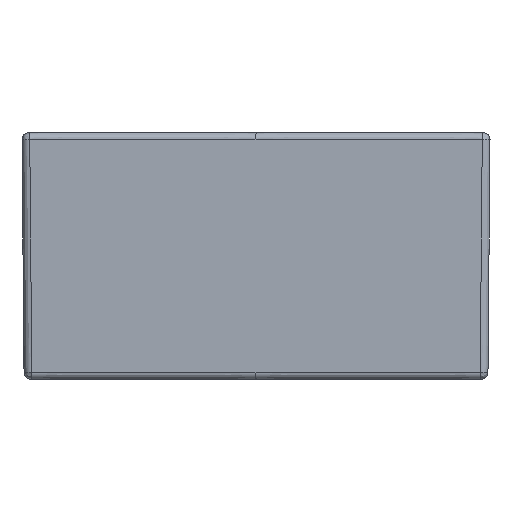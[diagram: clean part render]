
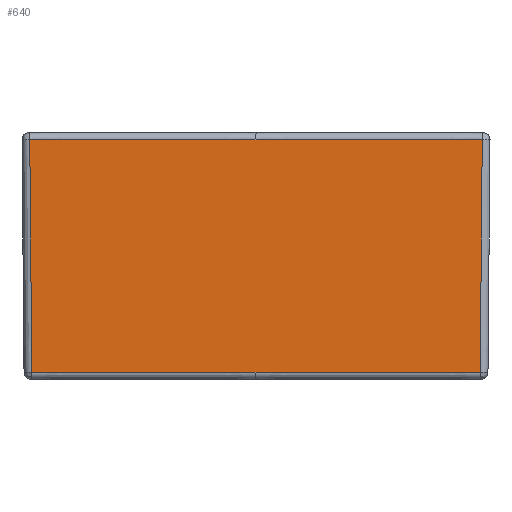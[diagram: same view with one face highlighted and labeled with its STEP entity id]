
A CAD part, left-side view. The second image highlights one B-rep face of the part: STEP entity #640.
In plain terms, the highlighted free-form (B-spline) face has degree [1, 3] with [2, 4] control points.
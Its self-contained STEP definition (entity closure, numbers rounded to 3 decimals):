
#608=B_SPLINE_SURFACE_WITH_KNOTS('',1,3,((#6536,#6537,#6538,#6539),(#6540,
#6541,#6542,#6543)),.UNSPECIFIED.,.F.,.F.,.F.,(2,2),(4,4),(0.,1.),(0.,1.),
 .UNSPECIFIED.);
#640=ADVANCED_FACE('',(#986),#608,.T.);
#986=FACE_OUTER_BOUND('',#1298,.T.);
#1298=EDGE_LOOP('',(#1836,#1837,#1838,#1839,#1840,#1841));
#1836=ORIENTED_EDGE('',*,*,#3656,.T.);
#1837=ORIENTED_EDGE('',*,*,#3657,.F.);
#1838=ORIENTED_EDGE('',*,*,#3658,.T.);
#1839=ORIENTED_EDGE('',*,*,#3659,.F.);
#1840=ORIENTED_EDGE('',*,*,#3660,.T.);
#1841=ORIENTED_EDGE('',*,*,#3661,.F.);
#3248=VERTEX_POINT('',#6486);
#3249=VERTEX_POINT('',#6487);
#3250=VERTEX_POINT('',#6492);
#3251=VERTEX_POINT('',#6509);
#3252=VERTEX_POINT('',#6514);
#3253=VERTEX_POINT('',#6519);
#3656=EDGE_CURVE('',#3248,#3249,#4356,.T.);
#3657=EDGE_CURVE('',#3250,#3249,#4357,.T.);
#3658=EDGE_CURVE('',#3250,#3251,#4358,.T.);
#3659=EDGE_CURVE('',#3252,#3251,#4359,.T.);
#3660=EDGE_CURVE('',#3252,#3253,#4360,.T.);
#3661=EDGE_CURVE('',#3248,#3253,#4361,.T.);
#4356=B_SPLINE_CURVE_WITH_KNOTS('',3,(#6482,#6483,#6484,#6485),
 .UNSPECIFIED.,.F.,.F.,(4,4),(0.,1.),.UNSPECIFIED.);
#4357=B_SPLINE_CURVE_WITH_KNOTS('',3,(#6488,#6489,#6490,#6491),
 .UNSPECIFIED.,.F.,.F.,(4,4),(0.,1.),.UNSPECIFIED.);
#4358=B_SPLINE_CURVE_WITH_KNOTS('',3,(#6493,#6494,#6495,#6496,#6497,#6498,
#6499,#6500,#6501,#6502,#6503,#6504,#6505,#6506,#6507,#6508),
 .UNSPECIFIED.,.F.,.F.,(4,3,3,3,3,4),(0.,0.165,0.431,
0.498,0.817,1.),.UNSPECIFIED.);
#4359=B_SPLINE_CURVE_WITH_KNOTS('',3,(#6510,#6511,#6512,#6513),
 .UNSPECIFIED.,.F.,.F.,(4,4),(0.,1.),.UNSPECIFIED.);
#4360=B_SPLINE_CURVE_WITH_KNOTS('',3,(#6515,#6516,#6517,#6518),
 .UNSPECIFIED.,.F.,.F.,(4,4),(0.,1.),.UNSPECIFIED.);
#4361=B_SPLINE_CURVE_WITH_KNOTS('',3,(#6520,#6521,#6522,#6523,#6524,#6525,
#6526,#6527,#6528,#6529,#6530,#6531,#6532,#6533,#6534,#6535),
 .UNSPECIFIED.,.F.,.F.,(4,3,3,3,3,4),(0.,0.165,0.431,
0.498,0.817,1.),.UNSPECIFIED.);
#6482=CARTESIAN_POINT('',(-226.128,159.94,-54.331));
#6483=CARTESIAN_POINT('',(-226.128,82.893,-54.331));
#6484=CARTESIAN_POINT('',(-226.128,5.847,-54.331));
#6485=CARTESIAN_POINT('',(-226.128,-71.2,-54.331));
#6486=CARTESIAN_POINT('',(-226.128,159.94,-54.331));
#6487=CARTESIAN_POINT('',(-226.128,-71.2,-54.331));
#6488=CARTESIAN_POINT('',(-226.128,-302.34,-54.331));
#6489=CARTESIAN_POINT('',(-226.128,-225.293,-54.331));
#6490=CARTESIAN_POINT('',(-226.128,-148.247,-54.331));
#6491=CARTESIAN_POINT('',(-226.128,-71.2,-54.331));
#6492=CARTESIAN_POINT('',(-226.128,-302.34,-54.331));
#6493=CARTESIAN_POINT('',(-226.128,-302.34,-54.331));
#6494=CARTESIAN_POINT('',(-226.243,-302.455,-41.161));
#6495=CARTESIAN_POINT('',(-226.358,-302.57,-27.991));
#6496=CARTESIAN_POINT('',(-226.473,-302.685,-14.82));
#6497=CARTESIAN_POINT('',(-226.659,-302.871,6.511));
#6498=CARTESIAN_POINT('',(-226.845,-303.057,27.843));
#6499=CARTESIAN_POINT('',(-227.032,-303.243,49.175));
#6500=CARTESIAN_POINT('',(-227.078,-303.29,54.508));
#6501=CARTESIAN_POINT('',(-227.125,-303.336,59.841));
#6502=CARTESIAN_POINT('',(-227.171,-303.383,65.173));
#6503=CARTESIAN_POINT('',(-227.394,-303.605,90.668));
#6504=CARTESIAN_POINT('',(-227.616,-303.828,116.162));
#6505=CARTESIAN_POINT('',(-227.839,-304.05,141.656));
#6506=CARTESIAN_POINT('',(-227.967,-304.178,156.327));
#6507=CARTESIAN_POINT('',(-228.095,-304.306,170.998));
#6508=CARTESIAN_POINT('',(-228.223,-304.434,185.669));
#6509=CARTESIAN_POINT('',(-228.223,-304.434,185.669));
#6510=CARTESIAN_POINT('',(-228.223,-71.2,185.669));
#6511=CARTESIAN_POINT('',(-228.223,-148.945,185.669));
#6512=CARTESIAN_POINT('',(-228.223,-226.69,185.669));
#6513=CARTESIAN_POINT('',(-228.223,-304.434,185.669));
#6514=CARTESIAN_POINT('',(-228.223,-71.2,185.669));
#6515=CARTESIAN_POINT('',(-228.223,-71.2,185.669));
#6516=CARTESIAN_POINT('',(-228.223,6.545,185.669));
#6517=CARTESIAN_POINT('',(-228.223,84.29,185.669));
#6518=CARTESIAN_POINT('',(-228.223,162.034,185.669));
#6519=CARTESIAN_POINT('',(-228.223,162.034,185.669));
#6520=CARTESIAN_POINT('',(-226.128,159.94,-54.331));
#6521=CARTESIAN_POINT('',(-226.243,160.055,-41.161));
#6522=CARTESIAN_POINT('',(-226.358,160.17,-27.991));
#6523=CARTESIAN_POINT('',(-226.473,160.285,-14.82));
#6524=CARTESIAN_POINT('',(-226.659,160.471,6.511));
#6525=CARTESIAN_POINT('',(-226.845,160.657,27.843));
#6526=CARTESIAN_POINT('',(-227.032,160.843,49.175));
#6527=CARTESIAN_POINT('',(-227.078,160.89,54.508));
#6528=CARTESIAN_POINT('',(-227.125,160.936,59.841));
#6529=CARTESIAN_POINT('',(-227.171,160.983,65.173));
#6530=CARTESIAN_POINT('',(-227.394,161.205,90.668));
#6531=CARTESIAN_POINT('',(-227.616,161.428,116.162));
#6532=CARTESIAN_POINT('',(-227.839,161.65,141.656));
#6533=CARTESIAN_POINT('',(-227.967,161.778,156.327));
#6534=CARTESIAN_POINT('',(-228.095,161.906,170.998));
#6535=CARTESIAN_POINT('',(-228.223,162.034,185.669));
#6536=CARTESIAN_POINT('',(-225.624,-304.697,-112.07));
#6537=CARTESIAN_POINT('',(-225.624,-147.45,-112.07));
#6538=CARTESIAN_POINT('',(-225.624,9.797,-112.07));
#6539=CARTESIAN_POINT('',(-225.624,167.045,-112.07));
#6540=CARTESIAN_POINT('',(-228.284,-304.697,192.73));
#6541=CARTESIAN_POINT('',(-228.284,-147.45,192.73));
#6542=CARTESIAN_POINT('',(-228.284,9.797,192.73));
#6543=CARTESIAN_POINT('',(-228.284,167.045,192.73));
